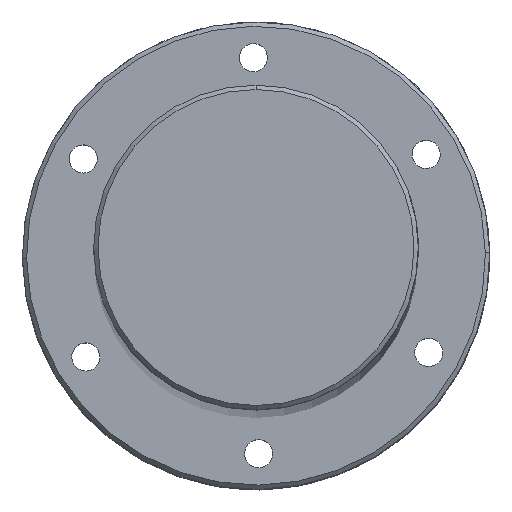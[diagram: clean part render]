
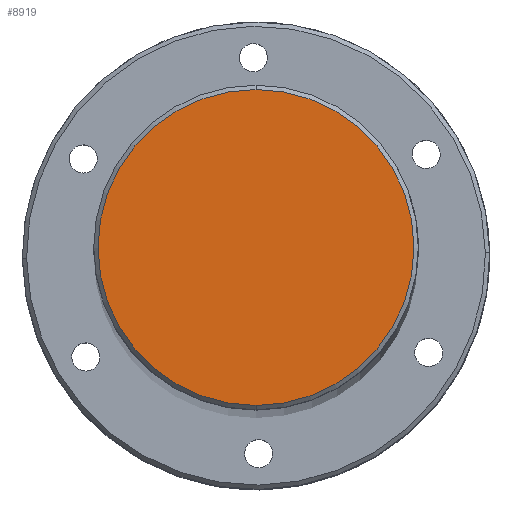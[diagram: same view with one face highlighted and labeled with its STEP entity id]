
A CAD part, top view. The second image highlights one B-rep face of the part: STEP entity #8919.
In plain terms, the highlighted planar face has unit normal (0, 0, 1) as drawn and (-1, 0, 0) by its records, which use the part's own axes.
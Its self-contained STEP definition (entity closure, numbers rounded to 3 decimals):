
#299 = CARTESIAN_POINT ( 'NONE',  ( 0., 0., 0. ) ) ;
#2144 = EDGE_CURVE ( 'NONE', #13440, #10307, #4050, .T. ) ;
#2242 = AXIS2_PLACEMENT_3D ( 'NONE', #8905, #9141, #10454 ) ;
#2626 = EDGE_LOOP ( 'NONE', ( #2942, #8990 ) ) ;
#2942 = ORIENTED_EDGE ( 'NONE', *, *, #9666, .T. ) ;
#3460 = AXIS2_PLACEMENT_3D ( 'NONE', #3583, #13499, #3921 ) ;
#3583 = CARTESIAN_POINT ( 'NONE',  ( 0., 0., 0. ) ) ;
#3921 = DIRECTION ( 'NONE',  ( 0., 0., -1. ) ) ;
#4050 = CIRCLE ( 'NONE', #5937, 36.5 ) ;
#5261 = DIRECTION ( 'NONE',  ( 0., 0., -1. ) ) ;
#5937 = AXIS2_PLACEMENT_3D ( 'NONE', #299, #15947, #5261 ) ;
#6257 = CIRCLE ( 'NONE', #2242, 36.5 ) ;
#6525 = CARTESIAN_POINT ( 'NONE',  ( 0., 0., -36.5 ) ) ;
#8905 = CARTESIAN_POINT ( 'NONE',  ( 0., 0., 0. ) ) ;
#8919 = ADVANCED_FACE ( 'NONE', ( #16500 ), #12190, .F. ) ;
#8990 = ORIENTED_EDGE ( 'NONE', *, *, #2144, .T. ) ;
#9141 = DIRECTION ( 'NONE',  ( -1., 0., 0. ) ) ;
#9666 = EDGE_CURVE ( 'NONE', #10307, #13440, #6257, .T. ) ;
#10307 = VERTEX_POINT ( 'NONE', #6525 ) ;
#10454 = DIRECTION ( 'NONE',  ( 0., 0., -1. ) ) ;
#12190 = PLANE ( 'NONE',  #3460 ) ;
#13440 = VERTEX_POINT ( 'NONE', #14859 ) ;
#13499 = DIRECTION ( 'NONE',  ( 1., 0., 0. ) ) ;
#14859 = CARTESIAN_POINT ( 'NONE',  ( 0., 0., 36.5 ) ) ;
#15947 = DIRECTION ( 'NONE',  ( -1., 0., 0. ) ) ;
#16500 = FACE_OUTER_BOUND ( 'NONE', #2626, .T. ) ;
